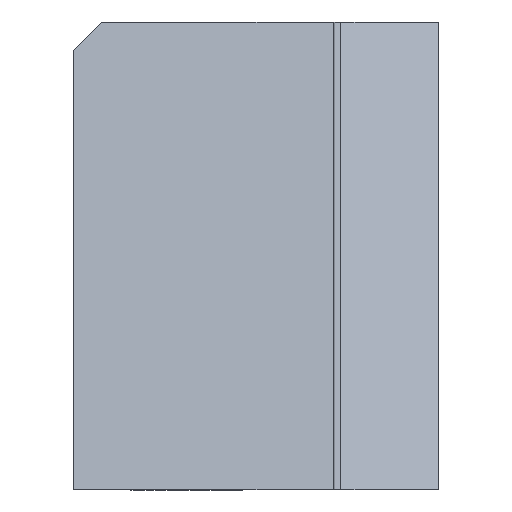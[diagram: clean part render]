
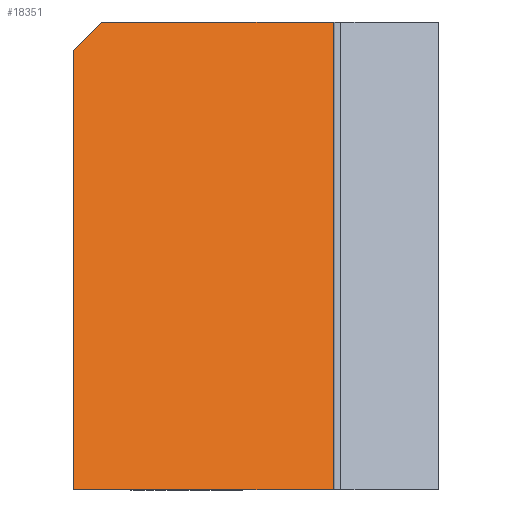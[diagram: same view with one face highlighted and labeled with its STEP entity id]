
A CAD part, left-side view. The second image highlights one B-rep face of the part: STEP entity #18351.
In plain terms, the highlighted planar face has unit normal (-0.943, 0, 0.334).
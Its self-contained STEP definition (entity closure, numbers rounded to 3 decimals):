
#1685=ORIENTED_EDGE('',*,*,#5631,.F.);
#1686=ORIENTED_EDGE('',*,*,#5632,.T.);
#1687=ORIENTED_EDGE('',*,*,#4766,.F.);
#1688=ORIENTED_EDGE('',*,*,#5633,.F.);
#1689=ORIENTED_EDGE('',*,*,#5268,.F.);
#4766=EDGE_CURVE('',#6739,#6740,#8030,.T.);
#5268=EDGE_CURVE('',#7240,#7242,#8371,.T.);
#5631=EDGE_CURVE('',#7604,#7240,#8614,.T.);
#5632=EDGE_CURVE('',#7604,#6740,#8615,.T.);
#5633=EDGE_CURVE('',#7242,#6739,#8616,.T.);
#6739=VERTEX_POINT('',#23549);
#6740=VERTEX_POINT('',#23550);
#7240=VERTEX_POINT('',#25434);
#7242=VERTEX_POINT('',#25437);
#7604=VERTEX_POINT('',#26163);
#8030=LINE('',#23548,#9565);
#8371=LINE('',#25436,#9906);
#8614=LINE('',#26162,#10149);
#8615=LINE('',#26164,#10150);
#8616=LINE('',#26165,#10151);
#9565=VECTOR('',#19911,1000.);
#9906=VECTOR('',#20274,1000.);
#10149=VECTOR('',#20759,1000.);
#10150=VECTOR('',#20760,1000.);
#10151=VECTOR('',#20761,1000.);
#11064=EDGE_LOOP('',(#1685,#1686,#1687,#1688,#1689));
#11911=FACE_BOUND('',#11064,.T.);
#12696=PLANE('',#19232);
#18351=ADVANCED_FACE('',(#11911),#12696,.T.);
#19232=AXIS2_PLACEMENT_3D('',#26161,#20757,#20758);
#19911=DIRECTION('',(0.,1.,0.));
#20274=DIRECTION('',(0.,-1.,0.));
#20757=DIRECTION('',(-0.942,0.,0.334));
#20758=DIRECTION('',(0.,1.,0.));
#20759=DIRECTION('',(0.243,-0.686,0.686));
#20760=DIRECTION('',(-0.334,0.,-0.942));
#20761=DIRECTION('',(-0.334,0.,-0.942));
#23548=CARTESIAN_POINT('',(-17.734,-27.75,-50.));
#23549=CARTESIAN_POINT('',(-17.734,-27.75,-50.));
#23550=CARTESIAN_POINT('',(-17.734,0.,-50.));
#25434=CARTESIAN_POINT('',(0.,-3.,0.));
#25436=CARTESIAN_POINT('',(0.,0.,0.));
#25437=CARTESIAN_POINT('',(0.,-27.75,0.));
#26161=CARTESIAN_POINT('',(0.,-27.75,0.));
#26162=CARTESIAN_POINT('',(1.938,-8.463,5.463));
#26163=CARTESIAN_POINT('',(-1.064,0.,-3.));
#26164=CARTESIAN_POINT('',(0.,0.,0.));
#26165=CARTESIAN_POINT('',(0.,-27.75,0.));
